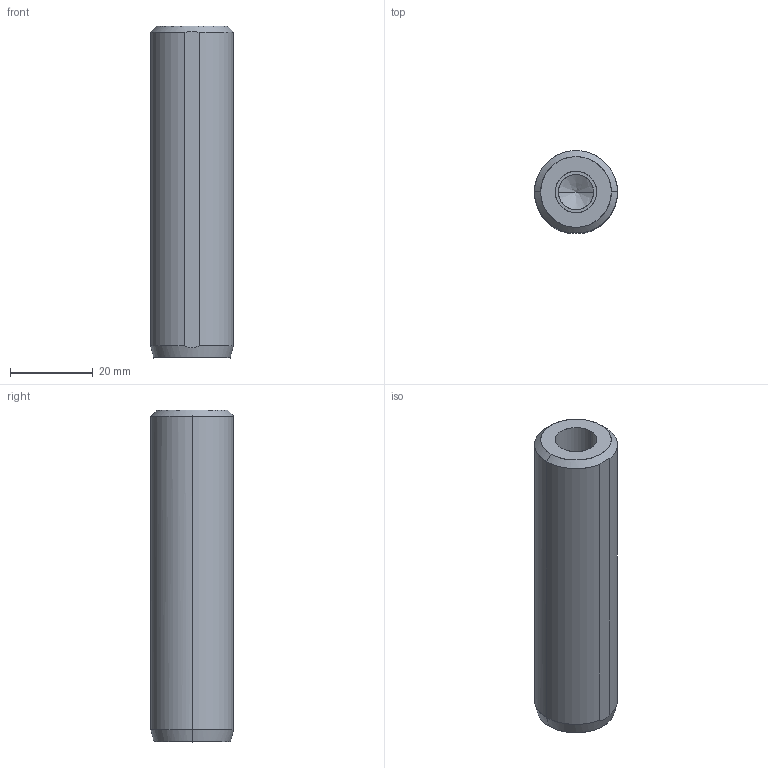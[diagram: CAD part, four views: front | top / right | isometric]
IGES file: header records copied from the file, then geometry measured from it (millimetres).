
Global section: file name: E:\UnigraphicsGraphicData\MISUMI_PRESS-PARTS\IGES\3d_mstm20-80_00438_r00.igs; native system: NX V5.0; preprocessor: UGS NX IGES V5.0; author: MISUMI; date: 20110105.161521; units: millimetre
Bounding box: 20 x 19.83 x 80 mm (x, y, z)
Surface area: 6201.3 mm2 (no closed solid volume)
Topology: 0 solids, 0 shells, 17 faces, 100 edges, 98 vertices
Faces by surface type: bspline 17
